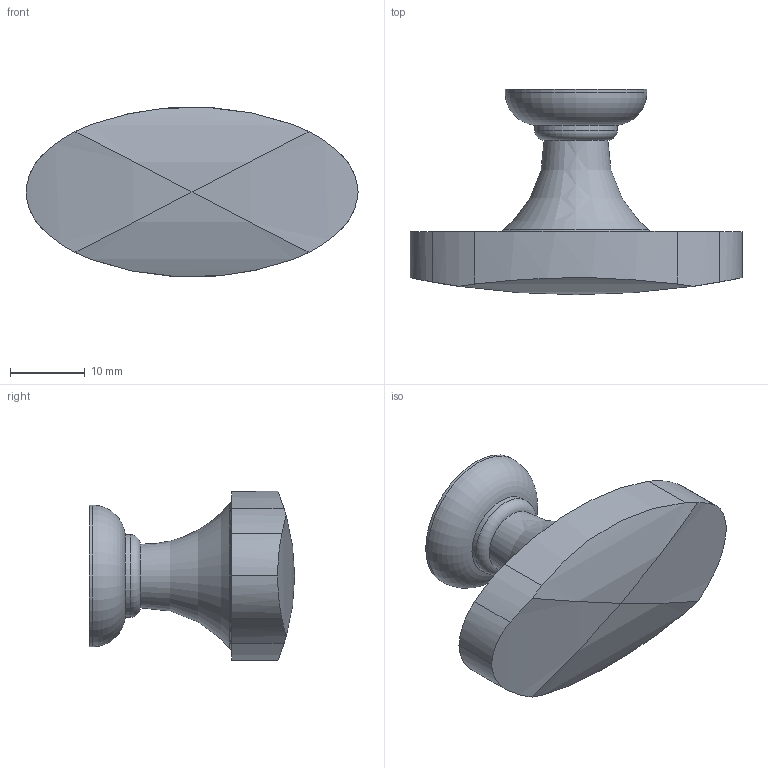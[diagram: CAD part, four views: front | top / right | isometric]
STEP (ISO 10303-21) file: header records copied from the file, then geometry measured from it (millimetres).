
FILE_DESCRIPTION( ( 'STEP AP214' ), '1' );
FILE_NAME( 'C:/Users/swati/Desktop/buena/9208064/9208064.stp', ' ', ( ' ' ), ( ' ' ), 'PSStep 15.0.47', 'PARTsolutions', ' ' );
FILE_SCHEMA( ( 'AUTOMOTIVE_DESIGN { 1 0 10303 214 1 1 1 1 }' ) );
Length unit declared in the file: millimetre
Products named in the file (2): 95 ; _
Assembly tree (1 placements, depth 2):
  95 
    _
Bounding box: 44.5 x 27.5 x 22.69 mm (x, y, z)
Volume: 8686.8 mm3; surface area: 3361.8 mm2
Topology: 1 solids, 1 shells, 25 faces, 56 edges, 35 vertices
Faces by surface type: cylinder 17, torus 5, plane 3
Full cylindrical faces by diameter (mm): 4 x1, 11.07 x1, 19 x1
Entity records: 998 total; most frequent: CARTESIAN_POINT 252, DIRECTION 104, ORIENTED_EDGE 96, EDGE_CURVE 48, AXIS2_PLACEMENT_3D 47, EDGE_LOOP 35, VERTEX_POINT 35, FACE_OUTER_BOUND 33
